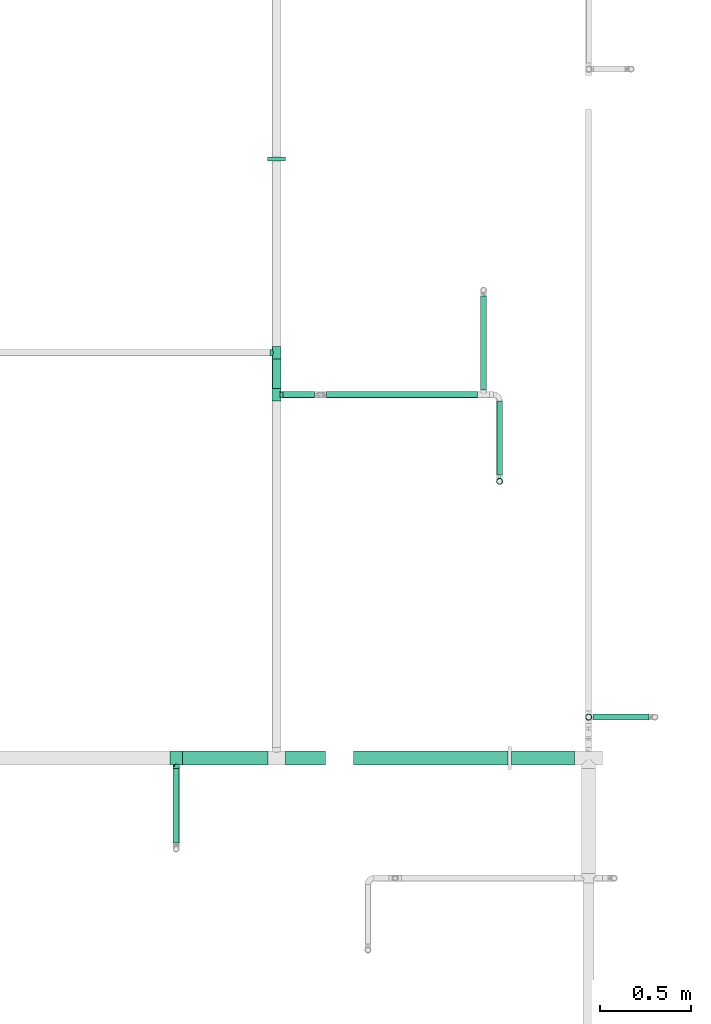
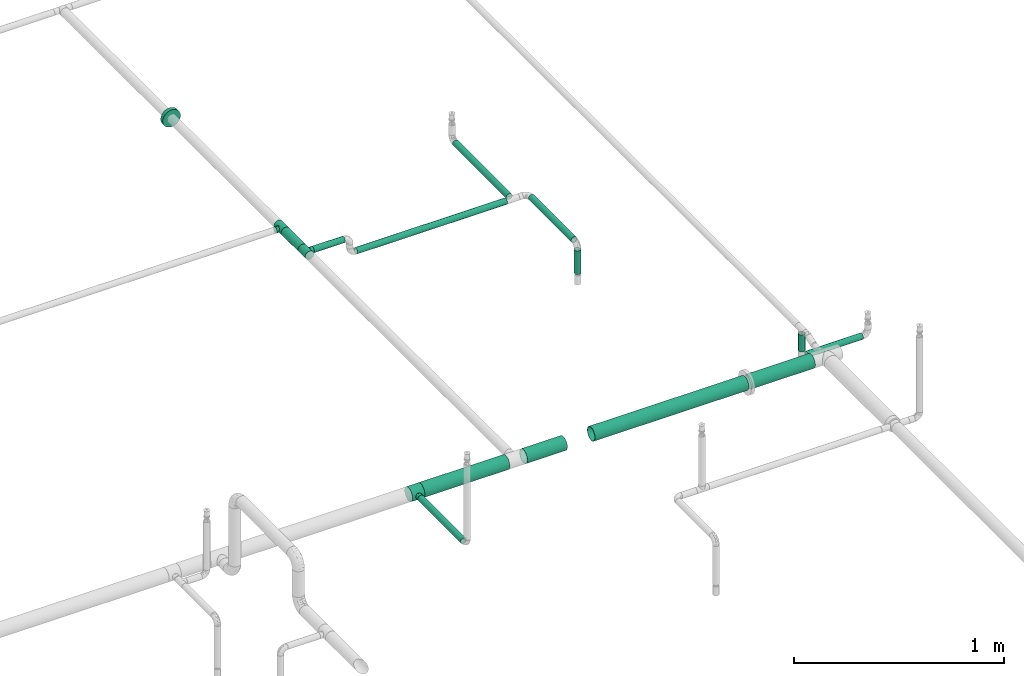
# One storey, part 20 of 157: 13 flow segments, 4 flow fittings.
"""IFC2X3 building model written with IfcOpenShell, lengths in millimetres."""

from ifc_helpers import new_model, entity, si_unit, converted_unit, derived_unit, direction, frame, origin_with_axes, origin_2d_with_axis, place, context, subcontext, project, spatial, hollow_circle, extrude, open_shell, surface_model, source, transform, mapped, type_object, element, save


model = new_model("IFC2X3")

# Units and contexts
model_context = context("Model", 3, precision=0.01, world=frame((0.0, 4.29681676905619e-09, 0.0)), true_north=direction((4.01073788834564e-13, 1.0)))
plan_context = context("Plan", 3, precision=0.01, world=frame((0.0, 4.29681676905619e-09, 0.0)), true_north=direction((4.01073788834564e-13, 1.0)))
body_context = subcontext(model_context, "Body", "Model", "MODEL_VIEW")
ifc_project = project(units=[converted_unit("PLANEANGLEUNIT", "DEGREE", entity("IfcPositiveLengthMeasure", 0.0174532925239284), si_unit("PLANEANGLEUNIT", "RADIAN"), dimensions=[0, 0, 0, 0, 0, 0, 0]), si_unit("AREAUNIT", "SQUARE_METRE"), si_unit("LENGTHUNIT", "METRE", prefix="MILLI"), si_unit("MASSUNIT", "GRAM", prefix="KILO"), si_unit("POWERUNIT", "WATT"), si_unit("PRESSUREUNIT", "PASCAL"), si_unit("FORCEUNIT", "NEWTON", prefix="KILO"), si_unit("ELECTRICCURRENTUNIT", "AMPERE"), si_unit("THERMODYNAMICTEMPERATUREUNIT", "DEGREE_CELSIUS"), si_unit("TIMEUNIT", "SECOND"), si_unit("VOLUMEUNIT", "CUBIC_METRE"), derived_unit("LINEARVELOCITYUNIT", [(si_unit("LENGTHUNIT", "METRE"), 1), (si_unit("TIMEUNIT", "SECOND"), -1)]), derived_unit("VOLUMETRICFLOWRATEUNIT", [(si_unit("VOLUMEUNIT", "CUBIC_METRE"), 1), (si_unit("TIMEUNIT", "SECOND"), -1)]), derived_unit("THERMALTRANSMITTANCEUNIT", [(si_unit("POWERUNIT", "WATT"), 1), (si_unit("THERMODYNAMICTEMPERATUREUNIT", "KELVIN"), -1), (si_unit("AREAUNIT", "SQUARE_METRE"), -1)])], contexts=[model_context, plan_context])

# Site, building, storey
site_placement = place(None, frame((0.0, -4.29681676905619e-09, 0.0), z_axis=(0.0, 0.0, 1.0), x_axis=(1.0, 0.0, 0.0)))
site = spatial("IfcSite", under=ifc_project, at=site_placement, CompositionType="ELEMENT")
building_placement = place(site_placement, frame((0.0, 4.29681676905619e-09, 0.0), z_axis=(0.0, 0.0, 1.0), x_axis=(1.0, 0.0, 0.0)))
building = spatial("IfcBuilding", under=site, at=building_placement, Name="mc-building", CompositionType="ELEMENT")
storey_placement = place(building_placement, frame((0.0, 0.0, 204000.0), z_axis=(0.0, 0.0, 1.0), x_axis=(1.0, 0.0, 0.0)))
storey = spatial("IfcBuildingStorey", under=building, at=storey_placement, Name="Nivå D", CompositionType="ELEMENT", Elevation=204000.0)

# Flow fittings
pipe_fitting_type_1 = type_object("IfcPipeFittingType", Name="magi_pipe_fe_tee_centric_90_NOR", PredefinedType="JUNCTION")
shared_shape_1 = source(origin_with_axes(), body_context, "Body", "SurfaceModel", [
    surface_model("IfcShellBasedSurfaceModel", [(-33.8, 0.0, -24.2), (-33.8, -6.26342, -23.37541), (-33.8, 6.26342, -23.37541), (-33.8, 12.1, -20.95781), (-33.8, 17.11198, -17.11198), (-33.8, 20.95781, -12.1), (-33.8, -23.37541, -6.26342), (-33.8, 23.37541, -6.26342), (-33.8, -17.11198, -17.11198), (-33.8, -20.95781, -12.1), (-33.8, -12.1, -20.95781), (-33.8, -24.2, 0.0), (-33.8, -23.37541, 6.26342), (-33.8, 20.95781, 12.1), (-33.8, 23.37541, 6.26342), (-33.8, 24.2, 0.0), (-33.8, 12.1, 20.95781), (-33.8, 17.11198, 17.11198), (-33.8, -17.11198, 17.11198), (-33.8, 6.26342, 23.37541), (-33.8, -20.95781, 12.1), (-33.8, -12.1, 20.95781), (-33.8, -6.26342, 23.37541), (-33.8, 0.0, 24.2), (33.8, 6.26342, -23.37541), (33.8, -6.26342, -23.37541), (33.8, 0.0, -24.2), (33.8, 17.11198, -17.11198), (33.8, 12.1, -20.95781), (33.8, -23.37541, -6.26342), (33.8, 20.95781, -12.1), (33.8, 23.37541, -6.26342), (33.8, -17.11198, -17.11198), (33.8, -12.1, -20.95781), (33.8, -20.95781, -12.1), (33.8, -24.2, 0.0), (33.8, 24.2, 0.0), (33.8, 23.37541, 6.26342), (33.8, 20.95781, 12.1), (33.8, -23.37541, 6.26342), (33.8, -17.11198, 17.11198), (33.8, 12.1, 20.95781), (33.8, 17.11198, 17.11198), (33.8, 6.26342, 23.37541), (33.8, -20.95781, 12.1), (33.8, -12.1, 20.95781), (33.8, 0.0, 24.2), (33.8, -6.26342, 23.37541), (15.81824, -23.45734, 5.94922), (16.9, -24.2, 0.0), (12.87025, -21.57947, 10.95293), (33.8, -19.0349, 14.60599), (8.52813, -19.30697, 14.59044), (3.03527, -17.5853, 16.6252), (-3.04044, -17.58619, 16.62425), (-8.52961, -19.30762, 14.58958), (-33.8, -19.0349, 14.60599), (-16.9, -24.2, 0.0), (-15.81885, -23.45775, 5.9476), (-12.87368, -21.58151, 10.9489), (3.03527, -17.5853, -16.6252), (33.8, -19.0349, -14.60599), (8.52813, -19.30697, -14.59044), (-8.52961, -19.30762, -14.58958), (-33.8, -19.0349, -14.60599), (12.87025, -21.57947, -10.95293), (-3.04044, -17.58619, -16.62425), (15.81824, -23.45734, -5.94922), (-12.87368, -21.58151, -10.9489), (-15.81885, -23.45775, -5.9476), (4.37404, -36.3, -16.32415), (-16.9, -36.3, 0.0), (0.0, -36.3, -16.9), (14.63583, -36.3, -8.45), (8.45, -36.3, -14.63583), (16.32415, -36.3, -4.37404), (11.9501, -36.3, -11.9501), (-11.9501, -36.3, -11.9501), (-8.45, -36.3, -14.63583), (-4.37404, -36.3, -16.32415), (-14.63583, -36.3, -8.45), (-16.32415, -36.3, -4.37404), (16.9, -36.3, 0.0), (8.45, -36.3, 14.63583), (16.32415, -36.3, 4.37404), (14.63583, -36.3, 8.45), (-8.45, -36.3, 14.63583), (11.9501, -36.3, 11.9501), (4.37404, -36.3, 16.32415), (-16.32415, -36.3, 4.37404), (-11.9501, -36.3, 11.9501), (-14.63583, -36.3, 8.45), (0.0, -36.3, 16.9), (-4.37404, -36.3, 16.32415), (-16.35943, -23.82888, 2.9738), (16.35912, -23.82867, 2.97461), (-0.00259, -17.58575, 16.62472), (16.35912, -23.82867, -2.97461), (-0.00259, -17.58575, -16.62472), (-16.35943, -23.82888, -2.9738)], [open_shell([[[0, 1, 2]], [[3, 2, 4]], [[5, 2, 6]], [[4, 2, 5]], [[7, 5, 6]], [[8, 9, 10]], [[1, 10, 9]], [[1, 9, 2]], [[9, 6, 2]], [[6, 11, 7]], [[11, 12, 7]], [[13, 14, 15]], [[13, 15, 12]], [[16, 17, 18]], [[12, 17, 13]], [[19, 16, 18]], [[20, 18, 12]], [[18, 17, 12]], [[21, 22, 18]], [[23, 18, 22]], [[18, 23, 19]], [[7, 12, 15]], [[24, 25, 26]], [[27, 24, 28]], [[29, 24, 30]], [[30, 24, 27]], [[29, 30, 31]], [[25, 32, 33]], [[32, 25, 34]], [[24, 34, 25]], [[24, 29, 34]], [[31, 35, 29]], [[31, 36, 35]], [[36, 37, 38]], [[39, 36, 38]], [[40, 38, 41]], [[41, 38, 42]], [[40, 41, 43]], [[39, 40, 44]], [[39, 38, 40]], [[45, 46, 47]], [[46, 45, 40]], [[43, 46, 40]], [[36, 39, 35]], [[35, 39, 48]], [[48, 49, 35]], [[39, 50, 48]], [[51, 40, 52]], [[52, 50, 44]], [[53, 52, 40]], [[54, 53, 21]], [[44, 50, 39]], [[55, 18, 56]], [[57, 58, 11]], [[12, 11, 58]], [[58, 59, 12]], [[55, 54, 18]], [[55, 20, 59]], [[20, 55, 56]], [[59, 20, 12]], [[18, 54, 21]], [[52, 44, 51]], [[53, 40, 45]], [[23, 47, 46]], [[22, 45, 47]], [[19, 46, 43]], [[38, 37, 14]], [[17, 41, 42]], [[13, 42, 38]], [[43, 41, 16]], [[15, 37, 36]], [[21, 45, 22]], [[22, 47, 23]], [[19, 23, 46]], [[43, 16, 19]], [[16, 41, 17]], [[13, 17, 42]], [[14, 13, 38]], [[37, 15, 14]], [[45, 21, 53]], [[5, 31, 30]], [[7, 36, 31]], [[4, 30, 27]], [[26, 25, 1]], [[2, 28, 24]], [[0, 24, 26]], [[27, 28, 3]], [[10, 25, 33]], [[15, 36, 7]], [[7, 31, 5]], [[4, 5, 30]], [[27, 3, 4]], [[3, 28, 2]], [[0, 2, 24]], [[1, 0, 26]], [[25, 10, 1]], [[33, 60, 10]], [[61, 34, 62]], [[63, 9, 64]], [[62, 60, 32]], [[34, 65, 62]], [[66, 10, 60]], [[29, 35, 67]], [[67, 65, 29]], [[49, 67, 35]], [[29, 65, 34]], [[66, 63, 8]], [[62, 32, 61]], [[64, 8, 63]], [[63, 68, 9]], [[8, 10, 66]], [[68, 69, 6]], [[69, 11, 6]], [[11, 69, 57]], [[68, 6, 9]], [[60, 33, 32]], [[70, 71, 72]], [[73, 70, 74]], [[73, 75, 70]], [[73, 74, 76]], [[71, 70, 75]], [[72, 77, 78]], [[78, 79, 72]], [[80, 71, 81]], [[77, 72, 80]], [[71, 80, 72]], [[75, 82, 71]], [[83, 82, 84]], [[83, 84, 85]], [[86, 71, 83]], [[83, 85, 87]], [[86, 83, 88]], [[89, 90, 91]], [[90, 89, 86]], [[86, 92, 93]], [[89, 71, 86]], [[88, 92, 86]], [[83, 71, 82]], [[89, 94, 71]], [[59, 91, 90]], [[89, 91, 58]], [[90, 86, 55]], [[89, 58, 94]], [[94, 57, 71]], [[58, 91, 59]], [[95, 48, 84]], [[55, 93, 54]], [[55, 59, 90]], [[92, 53, 96]], [[55, 86, 93]], [[53, 92, 88]], [[83, 52, 88]], [[87, 85, 50]], [[87, 52, 83]], [[48, 85, 84]], [[87, 50, 52]], [[52, 53, 88]], [[82, 95, 84]], [[48, 50, 85]], [[95, 82, 49]], [[92, 54, 93]], [[96, 54, 92]], [[75, 97, 82]], [[65, 73, 76]], [[75, 73, 67]], [[76, 74, 62]], [[97, 49, 82]], [[67, 73, 65]], [[62, 70, 60]], [[62, 65, 76]], [[72, 66, 98]], [[62, 74, 70]], [[99, 71, 57]], [[99, 69, 81]], [[75, 67, 97]], [[79, 66, 72]], [[69, 80, 81]], [[77, 80, 68]], [[72, 60, 70]], [[79, 63, 66]], [[63, 79, 78]], [[78, 77, 63]], [[63, 77, 68]], [[68, 80, 69]], [[71, 99, 81]], [[98, 60, 72]]])]),
])
for number, where, z_axis, x_axis, name in (
    (1, (529390.56587, 416260.00006, 2690.0), (0.0, 0.0, -1.0), (0.0, 1.0, 0.0), "magi_pipe_fe_tee_centric_90_NOR"),
    (2, (529390.56587, 416029.5488, 2690.0), (0.0, 0.0, 1.0), (0.0, 1.0, 0.0), "magi_pipe_fe_tee_centric_90_NOR"),
):
    element("IfcFlowFitting", number, at=place(storey_placement, frame(where, z_axis=z_axis, x_axis=x_axis)), inside=storey, type_object=pipe_fitting_type_1, Name=name, context=body_context, shape_type="MappedRepresentation", body=[
        mapped(shared_shape_1, transform((0.0, 0.0, 0.0), scale=1.0)),
    ])
pipe_fitting_type_2 = type_object("IfcPipeFittingType", Name="magi_pipe_fe_joint_001", PredefinedType="CONNECTOR")
shared_shape_2 = source(origin_with_axes(), body_context, "Body", "SurfaceModel", [
    surface_model("IfcShellBasedSurfaceModel", [(0.0, 0.0, -24.2), (0.0, -6.26342, -23.37541), (0.0, 6.26342, -23.37541), (0.0, 12.1, -20.95781), (0.0, 20.95781, -12.1), (0.0, -24.2, 0.0), (0.0, 17.11198, -17.11198), (0.0, -23.37541, 6.26342), (0.0, -12.1, -20.95781), (0.0, -17.11198, -17.11198), (0.0, -23.37541, -6.26342), (0.0, -20.95781, -12.1), (0.0, 23.37541, -6.26342), (0.0, 20.95781, 12.1), (0.0, 23.37541, 6.26342), (0.0, 24.2, 0.0), (0.0, 12.1, 20.95781), (0.0, -17.11198, 17.11198), (0.0, 17.11198, 17.11198), (0.0, 6.26342, 23.37541), (0.0, -20.95781, 12.1), (0.0, -6.26342, 23.37541), (0.0, 0.0, 24.2), (0.0, -12.1, 20.95781), (0.0, 24.6, -42.60845), (0.0, 12.7339, -47.52355), (0.0, 0.0, -49.2), (0.0, 34.78965, -34.78965), (0.0, 47.52355, -12.7339), (0.0, 42.60845, -24.6), (0.0, -12.7339, -47.52355), (0.0, -34.78965, -34.78965), (0.0, -24.6, -42.60845), (0.0, -42.60845, -24.6), (0.0, -47.52355, -12.7339), (0.0, -49.2, 0.0), (0.0, -47.52355, 12.7339), (0.0, 47.52355, 12.7339), (0.0, 49.2, 0.0), (0.0, 24.6, 42.60845), (0.0, 42.60845, 24.6), (0.0, 0.0, 49.2), (0.0, 34.78965, 34.78965), (0.0, 12.7339, 47.52355), (0.0, -34.78965, 34.78965), (0.0, -24.6, 42.60845), (0.0, -42.60845, 24.6), (0.0, -12.7339, 47.52355), (20.0, 0.0, -49.2), (20.0, 12.7339, -47.52355), (20.0, 24.6, -42.60845), (20.0, 34.78965, -34.78965), (20.0, 42.60845, -24.6), (20.0, 47.52355, -12.7339), (20.0, -12.7339, -47.52355), (20.0, -34.78965, -34.78965), (20.0, -24.6, -42.60845), (20.0, -47.52355, -12.7339), (20.0, -42.60845, -24.6), (20.0, -49.2, 0.0), (20.0, 49.2, 0.0), (20.0, 24.6, 42.60845), (20.0, 47.52355, 12.7339), (20.0, 42.60845, 24.6), (20.0, 0.0, 49.2), (20.0, 34.78965, 34.78965), (20.0, 12.7339, 47.52355), (20.0, -42.60845, 24.6), (20.0, -24.6, 42.60845), (20.0, -34.78965, 34.78965), (20.0, -47.52355, 12.7339), (20.0, -12.7339, 47.52355), (20.0, 6.26342, -23.37541), (20.0, -6.26342, -23.37541), (20.0, 0.0, -24.2), (20.0, 17.11198, -17.11198), (20.0, 12.1, -20.95781), (20.0, -23.37541, -6.26342), (20.0, 20.95781, -12.1), (20.0, 23.37541, -6.26342), (20.0, -17.11198, -17.11198), (20.0, -12.1, -20.95781), (20.0, -20.95781, -12.1), (20.0, -24.2, 0.0), (20.0, 24.2, 0.0), (20.0, 23.37541, 6.26342), (20.0, 20.95781, 12.1), (20.0, -23.37541, 6.26342), (20.0, -17.11198, 17.11198), (20.0, 12.1, 20.95781), (20.0, 17.11198, 17.11198), (20.0, 6.26342, 23.37541), (20.0, -20.95781, 12.1), (20.0, -12.1, 20.95781), (20.0, 0.0, 24.2), (20.0, -6.26342, 23.37541)], [open_shell([[[0, 1, 2]], [[3, 2, 4]], [[4, 2, 5]], [[6, 3, 4]], [[4, 5, 7]], [[8, 9, 1]], [[10, 1, 9]], [[11, 10, 9]], [[5, 1, 10]], [[5, 2, 1]], [[7, 12, 4]], [[13, 14, 15]], [[13, 15, 7]], [[16, 13, 17]], [[18, 13, 16]], [[19, 16, 17]], [[20, 17, 7]], [[17, 13, 7]], [[21, 22, 23]], [[17, 23, 22]], [[17, 22, 19]], [[12, 7, 15]], [[24, 25, 26]], [[27, 24, 26]], [[28, 29, 27]], [[30, 27, 26]], [[28, 27, 31]], [[32, 31, 30]], [[31, 27, 30]], [[33, 34, 31]], [[34, 28, 31]], [[34, 35, 36]], [[36, 28, 34]], [[37, 38, 39]], [[40, 37, 39]], [[41, 39, 38]], [[42, 40, 39]], [[43, 39, 41]], [[44, 45, 46]], [[36, 46, 45]], [[47, 41, 45]], [[38, 36, 45]], [[45, 41, 38]], [[28, 36, 38]], [[48, 49, 50]], [[48, 50, 51]], [[51, 52, 53]], [[48, 51, 54]], [[55, 51, 53]], [[54, 55, 56]], [[54, 51, 55]], [[55, 57, 58]], [[55, 53, 57]], [[59, 57, 53]], [[53, 60, 59]], [[61, 60, 62]], [[61, 62, 63]], [[60, 61, 64]], [[61, 63, 65]], [[64, 61, 66]], [[67, 68, 69]], [[68, 67, 70]], [[68, 64, 71]], [[68, 70, 60]], [[60, 64, 68]], [[60, 70, 59]], [[70, 35, 59]], [[67, 36, 70]], [[44, 69, 68]], [[67, 69, 46]], [[45, 68, 71]], [[67, 46, 36]], [[36, 35, 70]], [[47, 64, 41]], [[47, 45, 71]], [[44, 68, 45]], [[44, 46, 69]], [[64, 47, 71]], [[61, 43, 66]], [[65, 39, 61]], [[40, 63, 62]], [[65, 63, 42]], [[37, 62, 60]], [[61, 39, 43]], [[43, 41, 66]], [[37, 40, 62]], [[42, 63, 40]], [[42, 39, 65]], [[38, 37, 60]], [[66, 41, 64]], [[53, 38, 60]], [[52, 28, 53]], [[27, 51, 50]], [[52, 51, 29]], [[24, 50, 49]], [[52, 29, 28]], [[28, 38, 53]], [[25, 48, 26]], [[25, 24, 49]], [[27, 50, 24]], [[27, 29, 51]], [[48, 25, 49]], [[56, 30, 54]], [[55, 32, 56]], [[33, 58, 57]], [[55, 58, 31]], [[34, 57, 59]], [[56, 32, 30]], [[30, 26, 54]], [[34, 33, 57]], [[31, 58, 33]], [[31, 32, 55]], [[35, 34, 59]], [[54, 26, 48]], [[72, 73, 74]], [[75, 72, 76]], [[77, 72, 78]], [[78, 72, 75]], [[77, 78, 79]], [[73, 80, 81]], [[80, 73, 82]], [[72, 82, 73]], [[72, 77, 82]], [[79, 83, 77]], [[79, 84, 83]], [[84, 85, 86]], [[87, 84, 86]], [[88, 86, 89]], [[89, 86, 90]], [[88, 89, 91]], [[87, 88, 92]], [[87, 86, 88]], [[93, 94, 95]], [[94, 93, 88]], [[91, 94, 88]], [[84, 87, 83]], [[87, 5, 83]], [[92, 7, 87]], [[17, 88, 93]], [[92, 88, 20]], [[23, 93, 95]], [[92, 20, 7]], [[7, 5, 87]], [[21, 94, 22]], [[21, 23, 95]], [[17, 93, 23]], [[17, 20, 88]], [[94, 21, 95]], [[89, 19, 91]], [[90, 16, 89]], [[13, 86, 85]], [[90, 86, 18]], [[14, 85, 84]], [[89, 16, 19]], [[19, 22, 91]], [[14, 13, 85]], [[18, 86, 13]], [[18, 16, 90]], [[15, 14, 84]], [[91, 22, 94]], [[79, 15, 84]], [[78, 12, 79]], [[6, 75, 76]], [[78, 75, 4]], [[3, 76, 72]], [[78, 4, 12]], [[12, 15, 79]], [[2, 74, 0]], [[2, 3, 72]], [[6, 76, 3]], [[6, 4, 75]], [[74, 2, 72]], [[81, 1, 73]], [[80, 8, 81]], [[11, 82, 77]], [[80, 82, 9]], [[10, 77, 83]], [[81, 8, 1]], [[1, 0, 73]], [[10, 11, 77]], [[9, 82, 11]], [[9, 8, 80]], [[5, 10, 83]], [[73, 0, 74]]])]),
])
flow_fitting_1_placement = place(storey_placement, frame((529390.56587, 417331.48219, 2690.0), z_axis=(0.0, 0.0, 1.0), x_axis=(0.0, -1.0, 0.0)))
element("IfcFlowFitting", 3, at=flow_fitting_1_placement, inside=storey, type_object=pipe_fitting_type_2, Name="magi_pipe_fe_joint_001", context=body_context, shape_type="MappedRepresentation", body=[
    mapped(shared_shape_2, transform((0.0, 0.0, 0.0), scale=1.0)),
])
shared_shape_3 = source(origin_with_axes(), body_context, "Body", "SurfaceModel", [
    surface_model("IfcShellBasedSurfaceModel", [(-33.8, 9.86101, -36.80177), (-33.8, 0.0, -38.1), (-33.8, 36.80177, -9.86101), (-33.8, 19.05, -32.99557), (-33.8, 32.99557, -19.05), (-33.8, 26.94077, -26.94077), (-33.8, -38.1, 0.0), (-33.8, -19.05, -32.99557), (-33.8, -26.94077, -26.94077), (-33.8, -9.86101, -36.80177), (-33.8, -32.99557, -19.05), (-33.8, -36.80177, -9.86101), (-33.8, 38.1, 0.0), (-33.8, 32.99557, 19.05), (-33.8, 36.80177, 9.86101), (-33.8, -36.80177, 9.86101), (-33.8, 19.05, 32.99557), (-33.8, 26.94077, 26.94077), (-33.8, 9.86101, 36.80177), (-33.8, 0.0, 38.1), (-33.8, -26.94077, 26.94077), (-33.8, -32.99557, 19.05), (-33.8, -9.86101, 36.80177), (-33.8, -19.05, 32.99557), (33.8, 0.0, -38.1), (33.8, 9.86101, -36.80177), (33.8, 19.05, -32.99557), (33.8, 26.94077, -26.94077), (33.8, 32.99557, -19.05), (33.8, 36.80177, -9.86101), (33.8, -38.1, 0.0), (33.8, -9.86101, -36.80177), (33.8, -26.94077, -26.94077), (33.8, -19.05, -32.99557), (33.8, -32.99557, -19.05), (33.8, -36.80177, -9.86101), (33.8, 36.80177, 9.86101), (33.8, 32.99557, 19.05), (33.8, 19.05, 32.99557), (33.8, 0.0, 38.1), (33.8, 26.94077, 26.94077), (33.8, 9.86101, 36.80177), (33.8, -26.94077, 26.94077), (33.8, -32.99557, 19.05), (33.8, -36.80177, 9.86101), (33.8, -19.05, 32.99557), (33.8, -9.86101, 36.80177), (33.8, 38.1, 0.0), (33.8, -37.45089, 4.9305), (15.86072, -37.65053, 5.83504), (16.9, -38.1, 0.0), (12.92726, -36.51183, 10.88559), (2.96752, -34.27545, 16.63742), (33.8, -34.89867, 14.4555), (8.48894, -35.18611, 14.61328), (-8.4904, -35.18646, 14.61243), (-33.8, -34.89867, 14.4555), (-15.8612, -37.65073, 5.83372), (-33.8, -37.45089, 4.9305), (-16.9, -38.1, 0.0), (-12.9317, -36.51341, 10.88031), (-2.97221, -34.27585, 16.63658), (-33.8, -37.45089, -4.9305), (-15.8612, -37.65073, -5.83372), (15.86072, -37.65053, -5.83504), (33.8, -37.45089, -4.9305), (-12.9317, -36.51341, -10.88031), (-33.8, -34.89867, -14.4555), (-8.4904, -35.18646, -14.61243), (2.96752, -34.27545, -16.63742), (8.48894, -35.18611, -14.61328), (33.8, -34.89867, -14.4555), (12.92726, -36.51183, -10.88559), (-2.97221, -34.27585, -16.63658), (4.37404, -57.15, -16.32415), (-16.9, -57.15, 0.0), (0.0, -57.15, -16.9), (14.63583, -57.15, -8.45), (8.45, -57.15, -14.63583), (16.32415, -57.15, -4.37404), (11.9501, -57.15, -11.9501), (-11.9501, -57.15, -11.9501), (-8.45, -57.15, -14.63583), (-4.37404, -57.15, -16.32415), (-14.63583, -57.15, -8.45), (-16.32415, -57.15, -4.37404), (16.9, -57.15, 0.0), (8.45, -57.15, 14.63583), (16.32415, -57.15, 4.37404), (14.63583, -57.15, 8.45), (-8.45, -57.15, 14.63583), (11.9501, -57.15, 11.9501), (4.37404, -57.15, 16.32415), (-16.32415, -57.15, 4.37404), (-11.9501, -57.15, 11.9501), (-14.63583, -57.15, 8.45), (0.0, -57.15, 16.9), (-4.37404, -57.15, 16.32415), (-16.3806, -37.87537, 2.91686), (-5.7313, -34.73116, 15.62451), (-0.00235, -34.27565, 16.637), (5.72823, -34.73078, 15.62535), (16.38036, -37.87526, 2.91752), (16.38036, -37.87526, -2.91752), (5.72823, -34.73078, -15.62535), (-0.00235, -34.27565, -16.637), (-5.7313, -34.73116, -15.62451), (-16.3806, -37.87537, -2.91686)], [open_shell([[[0, 1, 2]], [[3, 0, 2]], [[2, 4, 5]], [[3, 2, 5]], [[6, 2, 1]], [[7, 8, 9]], [[8, 1, 9]], [[10, 11, 8]], [[6, 8, 11]], [[8, 6, 1]], [[6, 12, 2]], [[13, 14, 12]], [[15, 13, 6]], [[16, 13, 15]], [[17, 13, 16]], [[18, 16, 19]], [[20, 19, 21]], [[16, 15, 21]], [[22, 19, 23]], [[20, 23, 19]], [[21, 19, 16]], [[12, 6, 13]], [[24, 25, 26]], [[24, 26, 27]], [[27, 28, 29]], [[24, 27, 30]], [[30, 27, 29]], [[31, 32, 33]], [[31, 24, 32]], [[34, 30, 35]], [[30, 34, 32]], [[24, 30, 32]], [[29, 36, 30]], [[36, 37, 30]], [[30, 37, 38]], [[38, 39, 30]], [[38, 37, 40]], [[39, 38, 41]], [[30, 42, 43]], [[44, 30, 43]], [[45, 39, 46]], [[45, 42, 30]], [[30, 39, 45]], [[36, 29, 47]], [[48, 44, 49]], [[50, 30, 48]], [[44, 51, 49]], [[43, 42, 52]], [[50, 48, 49]], [[44, 53, 51]], [[52, 54, 43]], [[42, 20, 52]], [[54, 53, 43]], [[55, 21, 56]], [[57, 58, 59]], [[6, 59, 58]], [[57, 60, 15]], [[55, 61, 21]], [[51, 53, 54]], [[15, 60, 56]], [[21, 61, 20]], [[56, 60, 55]], [[61, 52, 20]], [[57, 15, 58]], [[42, 23, 20]], [[19, 46, 39]], [[22, 45, 46]], [[18, 39, 41]], [[37, 36, 14]], [[17, 38, 40]], [[13, 40, 37]], [[41, 38, 16]], [[12, 36, 47]], [[23, 45, 22]], [[22, 46, 19]], [[18, 19, 39]], [[41, 16, 18]], [[16, 38, 17]], [[13, 17, 40]], [[14, 13, 37]], [[36, 12, 14]], [[45, 23, 42]], [[12, 47, 29]], [[29, 28, 2]], [[59, 62, 63]], [[27, 4, 28]], [[9, 24, 31]], [[0, 26, 25]], [[64, 35, 65]], [[24, 1, 25]], [[31, 33, 7]], [[27, 26, 5]], [[66, 67, 68]], [[4, 2, 28]], [[12, 29, 2]], [[27, 5, 4]], [[3, 26, 0]], [[26, 3, 5]], [[0, 25, 1]], [[9, 1, 24]], [[31, 7, 9]], [[33, 8, 7]], [[32, 34, 69]], [[70, 34, 71]], [[70, 69, 34]], [[35, 72, 71]], [[32, 69, 8]], [[30, 50, 65]], [[64, 72, 35]], [[64, 65, 50]], [[72, 70, 71]], [[73, 68, 10]], [[10, 8, 73]], [[68, 67, 10]], [[73, 8, 69]], [[66, 63, 11]], [[63, 62, 11]], [[62, 59, 6]], [[11, 67, 66]], [[32, 8, 33]], [[74, 75, 76]], [[77, 74, 78]], [[77, 79, 74]], [[77, 78, 80]], [[75, 74, 79]], [[76, 81, 82]], [[82, 83, 76]], [[84, 75, 85]], [[81, 76, 84]], [[75, 84, 76]], [[79, 86, 75]], [[87, 86, 88]], [[87, 88, 89]], [[90, 75, 87]], [[87, 89, 91]], [[90, 87, 92]], [[93, 94, 95]], [[94, 93, 90]], [[90, 96, 97]], [[93, 75, 90]], [[92, 96, 90]], [[87, 75, 86]], [[93, 98, 75]], [[60, 95, 94]], [[93, 95, 57]], [[94, 90, 55]], [[98, 59, 75]], [[57, 95, 60]], [[97, 61, 99]], [[55, 60, 94]], [[96, 52, 100]], [[87, 101, 92]], [[99, 90, 97]], [[99, 55, 90]], [[93, 57, 98]], [[92, 52, 96]], [[49, 89, 88]], [[102, 86, 50]], [[102, 49, 88]], [[91, 89, 51]], [[96, 61, 97]], [[101, 52, 92]], [[87, 54, 101]], [[87, 91, 54]], [[54, 91, 51]], [[51, 89, 49]], [[86, 102, 88]], [[100, 61, 96]], [[79, 103, 86]], [[72, 77, 80]], [[79, 77, 64]], [[80, 78, 70]], [[103, 50, 86]], [[64, 77, 72]], [[74, 69, 104]], [[70, 72, 80]], [[76, 73, 105]], [[82, 106, 83]], [[107, 75, 59]], [[104, 78, 74]], [[104, 70, 78]], [[68, 82, 81]], [[79, 64, 103]], [[63, 84, 85]], [[107, 63, 85]], [[84, 66, 81]], [[76, 69, 74]], [[83, 106, 73]], [[73, 76, 83]], [[68, 106, 82]], [[68, 81, 66]], [[66, 84, 63]], [[75, 107, 85]], [[105, 69, 76]]])]),
])
flow_fitting_2_placement = place(storey_placement, frame((528840.35, 414039.35389, 2690.0), z_axis=(0.0, 0.0, -1.0), x_axis=(-1.0, 0.0, 0.0)))
element("IfcFlowFitting", 4, at=flow_fitting_2_placement, inside=storey, type_object=pipe_fitting_type_1, Name="magi_pipe_fe_tee_centric_90_NOR", context=body_context, shape_type="MappedRepresentation", body=[
    mapped(shared_shape_3, transform((0.0, 0.0, 0.0), scale=1.0)),
])

# Flow segments
pipe_segment_type = type_object("IfcPipeSegmentType", Name="Stålrør normaltykke", PredefinedType="RIGIDSEGMENT")
shared_shape_4 = source(origin_with_axes(), body_context, "Body", "SweptSolid", [
    extrude(hollow_circle(Radius=38.0, WallThickness=2.0, at=origin_2d_with_axis()), frame((0.0, 0.0, 0.0), z_axis=(1.0, 0.0, 0.0), x_axis=(0.0, 1.0, 0.0)), (0.0, 0.0, 1.0), 346.2),
])
flow_segment_1_placement = place(storey_placement, frame((530678.16984, 414039.35389, 2690.0), z_axis=(0.0, 0.0, 1.0), x_axis=(1.0, 0.0, 0.0)))
element("IfcFlowSegment", 5, at=flow_segment_1_placement, inside=storey, type_object=pipe_segment_type, Name="Stålrør normaltykke", context=body_context, shape_type="MappedRepresentation", body=[
    mapped(shared_shape_4, transform((0.0, 0.0, 0.0), scale=1.0)),
])
shared_shape_5 = source(origin_with_axes(), body_context, "Body", "SweptSolid", [
    extrude(hollow_circle(Radius=16.9, WallThickness=2.0, at=origin_2d_with_axis()), frame((0.0, 0.0, 0.0), z_axis=(1.0, 0.0, 0.0), x_axis=(0.0, 1.0, 0.0)), (0.0, 0.0, 1.0), 304.5),
])
flow_segment_2_placement = place(storey_placement, frame((531430.39427, 414262.85739, 2556.32699999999), z_axis=(-0.000239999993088, 0.0, 0.999999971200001), x_axis=(-0.999999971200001, 0.0, -0.000239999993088)))
element("IfcFlowSegment", 6, at=flow_segment_2_placement, inside=storey, type_object=pipe_segment_type, Name="Stålrør normaltykke", context=body_context, shape_type="MappedRepresentation", body=[
    mapped(shared_shape_5, transform((0.0, 0.0, 0.0), scale=1.0)),
])
shared_shape_6 = source(origin_with_axes(), body_context, "Body", "SweptSolid", [
    extrude(hollow_circle(Radius=16.9, WallThickness=2.0, at=origin_2d_with_axis()), frame((0.0, 0.0, 0.0), z_axis=(1.0, 0.0, 0.0), x_axis=(0.0, 1.0, 0.0)), (0.0, 0.0, 1.0), 98.9),
])
flow_segment_3_placement = place(storey_placement, frame((531100.61546, 414262.85739, 2689.06294), z_axis=(0.0, 1.0, 0.0), x_axis=(0.0, 0.0, -1.0)))
element("IfcFlowSegment", 7, at=flow_segment_3_placement, inside=storey, type_object=pipe_segment_type, Name="Stålrør normaltykke", context=body_context, shape_type="MappedRepresentation", body=[
    mapped(shared_shape_6, transform((0.0, 0.0, 0.0), scale=1.0)),
])
shared_shape_7 = source(origin_with_axes(), body_context, "Body", "SweptSolid", [
    extrude(hollow_circle(Radius=16.9, WallThickness=2.0, at=origin_2d_with_axis()), frame((0.0, 0.0, 0.0), z_axis=(1.0, 0.0, 0.0), x_axis=(0.0, 1.0, 0.0)), (0.0, 0.0, 1.0), 514.3),
])
flow_segment_4_placement = place(storey_placement, frame((530524.76823, 416569.23219, 2600.0), z_axis=(0.0, 0.0, 1.0), x_axis=(0.0, -1.0, 0.0)))
element("IfcFlowSegment", 8, at=flow_segment_4_placement, inside=storey, type_object=pipe_segment_type, Name="Stålrør normaltykke", context=body_context, shape_type="MappedRepresentation", body=[
    mapped(shared_shape_7, transform((0.0, 0.0, 0.0), scale=1.0)),
])
shared_shape_8 = source(origin_with_axes(), body_context, "Body", "SweptSolid", [
    extrude(hollow_circle(Radius=16.9, WallThickness=2.0, at=origin_2d_with_axis()), frame((0.0, 0.0, 0.0), z_axis=(1.0, 0.0, 0.0), x_axis=(0.0, 1.0, 0.0)), (0.0, 0.0, 1.0), 136.8),
])
flow_segment_5_placement = place(storey_placement, frame((530612.35289, 415554.99489, 2429.35200000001), z_axis=(0.0, -1.0, 0.0), x_axis=(0.0, 0.0, 1.0)))
element("IfcFlowSegment", 9, at=flow_segment_5_placement, inside=storey, type_object=pipe_segment_type, Name="Stålrør normaltykke", context=body_context, shape_type="MappedRepresentation", body=[
    mapped(shared_shape_8, transform((0.0, 0.0, 0.0), scale=1.0)),
])
shared_shape_9 = source(origin_with_axes(), body_context, "Body", "SweptSolid", [
    extrude(hollow_circle(Radius=16.9, WallThickness=2.0, at=origin_2d_with_axis()), frame((0.0, 0.0, 0.0), z_axis=(1.0, 0.0, 0.0), x_axis=(0.0, 1.0, 0.0)), (0.0, 0.0, 1.0), 407.0),
])
flow_segment_6_placement = place(storey_placement, frame((530612.35289, 415588.79489, 2600.0), z_axis=(0.0, 0.0, 1.0), x_axis=(0.0, 1.0, 0.0)))
element("IfcFlowSegment", 10, at=flow_segment_6_placement, inside=storey, type_object=pipe_segment_type, Name="Stålrør normaltykke", context=body_context, shape_type="MappedRepresentation", body=[
    mapped(shared_shape_9, transform((0.0, 0.0, 0.0), scale=1.0)),
])
shared_shape_10 = source(origin_with_axes(), body_context, "Body", "SweptSolid", [
    extrude(hollow_circle(Radius=16.9, WallThickness=2.0, at=origin_2d_with_axis()), frame((0.0, 0.0, 0.0), z_axis=(1.0, 0.0, 0.0), x_axis=(0.0, 1.0, 0.0)), (0.0, 0.0, 1.0), 826.2),
])
flow_segment_7_placement = place(storey_placement, frame((530490.96823, 416029.5488, 2600.0), z_axis=(0.0, 0.0, 1.0), x_axis=(-1.0, 0.0, 0.0)))
element("IfcFlowSegment", 11, at=flow_segment_7_placement, inside=storey, type_object=pipe_segment_type, Name="Stålrør normaltykke", context=body_context, shape_type="MappedRepresentation", body=[
    mapped(shared_shape_10, transform((0.0, 0.0, 0.0), scale=1.0)),
])
shared_shape_11 = source(origin_with_axes(), body_context, "Body", "SweptSolid", [
    extrude(hollow_circle(Radius=38.0, WallThickness=2.0, at=origin_2d_with_axis()), frame((0.0, 0.0, 0.0), z_axis=(1.0, 0.0, 0.0), x_axis=(0.0, 1.0, 0.0)), (0.0, 0.0, 1.0), 846.4),
])
flow_segment_8_placement = place(storey_placement, frame((529811.80786, 414039.35389, 2690.0), z_axis=(0.0, 0.0, 1.0), x_axis=(1.0, 0.0, 0.0)))
element("IfcFlowSegment", 12, at=flow_segment_8_placement, inside=storey, type_object=pipe_segment_type, Name="Stålrør normaltykke", context=body_context, shape_type="MappedRepresentation", body=[
    mapped(shared_shape_11, transform((0.0, 0.0, 0.0), scale=1.0)),
])
shared_shape_12 = source(origin_with_axes(), body_context, "Body", "SweptSolid", [
    extrude(hollow_circle(Radius=38.0, WallThickness=2.0, at=origin_2d_with_axis()), frame((0.0, 0.0, 0.0), z_axis=(1.0, 0.0, 0.0), x_axis=(0.0, 1.0, 0.0)), (0.0, 0.0, 1.0), 468.0),
])
flow_segment_9_placement = place(storey_placement, frame((528874.15, 414039.35389, 2690.0), z_axis=(0.0, 0.0, 1.0), x_axis=(1.0, 0.0, 0.0)))
element("IfcFlowSegment", 13, at=flow_segment_9_placement, inside=storey, type_object=pipe_segment_type, Name="Stålrør normaltykke", context=body_context, shape_type="MappedRepresentation", body=[
    mapped(shared_shape_12, transform((0.0, 0.0, 0.0), scale=1.0)),
])
shared_shape_13 = source(origin_with_axes(), body_context, "Body", "SweptSolid", [
    extrude(hollow_circle(Radius=16.9, WallThickness=2.0, at=origin_2d_with_axis()), frame((0.0, 0.0, 0.0), z_axis=(1.0, 0.0, 0.0), x_axis=(0.0, 1.0, 0.0)), (0.0, 0.0, 1.0), 170.3),
])
flow_segment_10_placement = place(storey_placement, frame((529426.86587, 416029.5488, 2690.0), z_axis=(0.0, 0.0, 1.0), x_axis=(1.0, 0.0, 0.0)))
element("IfcFlowSegment", 14, at=flow_segment_10_placement, inside=storey, type_object=pipe_segment_type, Name="Stålrør normaltykke", context=body_context, shape_type="MappedRepresentation", body=[
    mapped(shared_shape_13, transform((0.0, 0.0, 0.0), scale=1.0)),
])
shared_shape_14 = source(origin_with_axes(), body_context, "Body", "SweptSolid", [
    extrude(hollow_circle(Radius=24.1, WallThickness=2.0, at=origin_2d_with_axis()), frame((0.0, 0.0, 0.0), z_axis=(1.0, 0.0, 0.0), x_axis=(0.0, 1.0, 0.0)), (0.0, 0.0, 1.0), 162.9),
])
flow_segment_11_placement = place(storey_placement, frame((529390.56587, 416226.20006, 2690.0), z_axis=(0.0, 0.0, 1.0), x_axis=(0.0, -1.0, 0.0)))
element("IfcFlowSegment", 15, at=flow_segment_11_placement, inside=storey, type_object=pipe_segment_type, Name="Stålrør normaltykke", context=body_context, shape_type="MappedRepresentation", body=[
    mapped(shared_shape_14, transform((0.0, 0.0, 0.0), scale=1.0)),
])
shared_shape_15 = source(origin_with_axes(), body_context, "Body", "SweptSolid", [
    extrude(hollow_circle(Radius=16.9, WallThickness=2.0, at=origin_2d_with_axis()), frame((0.0, 0.0, 0.0), z_axis=(1.0, 0.0, 0.0), x_axis=(0.0, 1.0, 0.0)), (0.0, 0.0, 1.0), 408.4),
])
flow_segment_12_placement = place(storey_placement, frame((528840.35, 413573.80018, 2690.0), z_axis=(0.0, 0.0, 1.0), x_axis=(0.0, 1.0, 0.0)))
element("IfcFlowSegment", 16, at=flow_segment_12_placement, inside=storey, type_object=pipe_segment_type, Name="Stålrør normaltykke", context=body_context, shape_type="MappedRepresentation", body=[
    mapped(shared_shape_15, transform((0.0, 0.0, 0.0), scale=1.0)),
])
shared_shape_16 = source(origin_with_axes(), body_context, "Body", "SweptSolid", [
    extrude(hollow_circle(Radius=38.0, WallThickness=2.0, at=origin_2d_with_axis()), frame((0.0, 0.0, 0.0), z_axis=(1.0, 0.0, 0.0), x_axis=(0.0, 1.0, 0.0)), (0.0, 0.0, 1.0), 220.4),
])
flow_segment_13_placement = place(storey_placement, frame((529438.96587, 414039.35389, 2690.0), z_axis=(0.0, 0.0, 1.0), x_axis=(1.0, 0.0, 0.0)))
element("IfcFlowSegment", 17, at=flow_segment_13_placement, inside=storey, type_object=pipe_segment_type, Name="Stålrør normaltykke", context=body_context, shape_type="MappedRepresentation", body=[
    mapped(shared_shape_16, transform((0.0, 0.0, 0.0), scale=1.0)),
])

save(model, "model.ifc")
